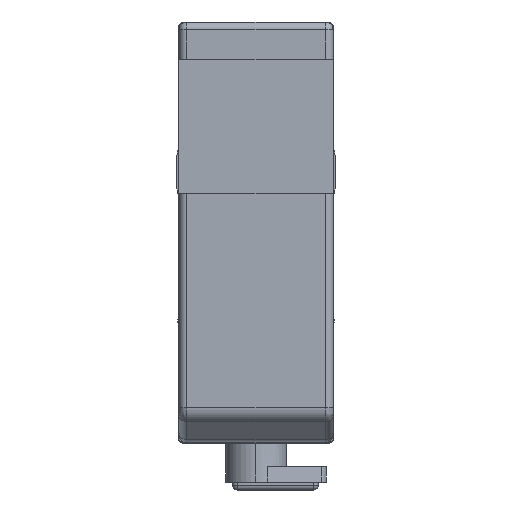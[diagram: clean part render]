
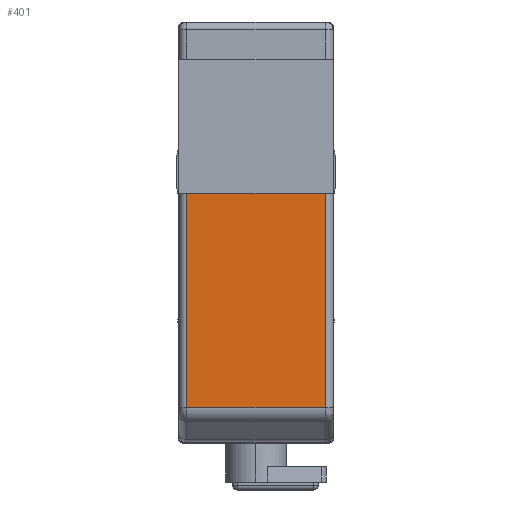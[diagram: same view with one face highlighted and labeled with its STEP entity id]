
A CAD part, top view. The second image highlights one B-rep face of the part: STEP entity #401.
In plain terms, the highlighted planar face has unit normal (0, 0, 1).
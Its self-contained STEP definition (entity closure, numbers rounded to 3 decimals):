
#401=ADVANCED_FACE('',(#1903),#1902,.F.);
#1902=PLANE('',#3597);
#1903=FACE_OUTER_BOUND('',#3598,.T.);
#3594=CARTESIAN_POINT('',(5.34,-26.133,27.4));
#3595=DIRECTION('',(0.,0.,-1.));
#3596=DIRECTION('',(-1.,0.,0.));
#3597=AXIS2_PLACEMENT_3D('',#3594,#3595,#3596);
#3598=EDGE_LOOP('',(#4762,#4763,#4764,#4765));
#4762=ORIENTED_EDGE('',*,*,#5322,.F.);
#4763=ORIENTED_EDGE('',*,*,#5379,.T.);
#4764=ORIENTED_EDGE('',*,*,#5467,.T.);
#4765=ORIENTED_EDGE('',*,*,#5402,.T.);
#5322=EDGE_CURVE('',#7086,#7093,#7094,.T.);
#5379=EDGE_CURVE('',#7086,#7475,#7482,.T.);
#5402=EDGE_CURVE('',#7613,#7093,#7632,.T.);
#5467=EDGE_CURVE('',#7475,#7613,#8058,.T.);
#7086=VERTEX_POINT('',#9993);
#7093=VERTEX_POINT('',#9998);
#7094=LINE('',#9999,#10000);
#7475=VERTEX_POINT('',#10237);
#7482=LINE('',#10242,#10243);
#7613=VERTEX_POINT('',#10325);
#7632=LINE('',#10338,#10339);
#8058=LINE('',#10583,#10584);
#9993=CARTESIAN_POINT('',(-4.45,-11.,27.4));
#9998=CARTESIAN_POINT('',(4.45,-11.,27.4));
#9999=CARTESIAN_POINT('',(-4.45,-11.,27.4));
#10000=VECTOR('',#10001,8.9);
#10001=DIRECTION('',(1.,0.,0.));
#10237=CARTESIAN_POINT('',(-4.45,-24.758,27.4));
#10242=CARTESIAN_POINT('',(-4.45,-11.,27.4));
#10243=VECTOR('',#10244,13.758);
#10244=DIRECTION('',(0.,-1.,0.));
#10325=CARTESIAN_POINT('',(4.45,-24.758,27.4));
#10338=CARTESIAN_POINT('',(4.45,-24.758,27.4));
#10339=VECTOR('',#10340,13.758);
#10340=DIRECTION('',(0.,1.,0.));
#10583=CARTESIAN_POINT('',(-4.45,-24.758,27.4));
#10584=VECTOR('',#10585,8.9);
#10585=DIRECTION('',(1.,0.,0.));
